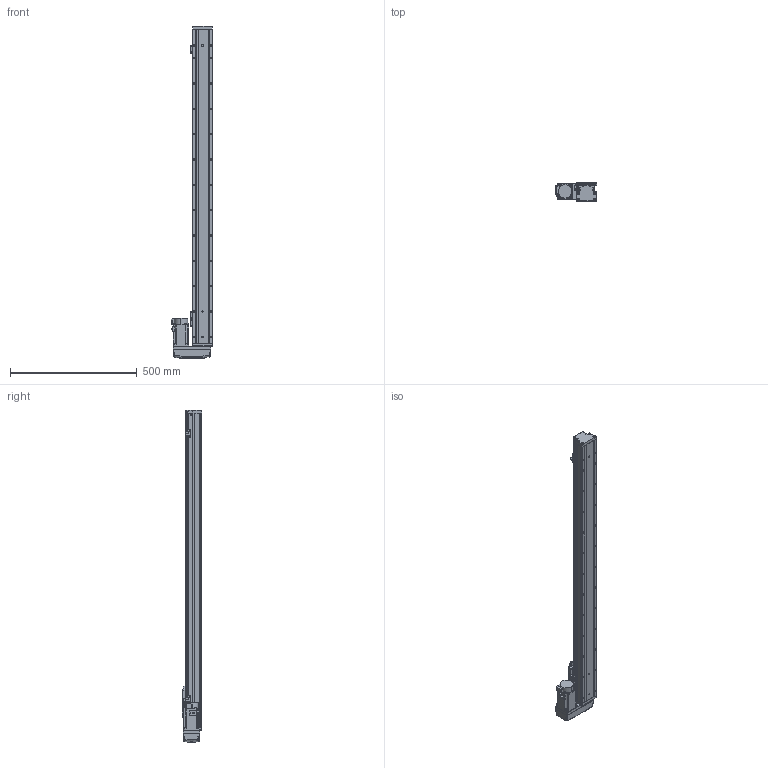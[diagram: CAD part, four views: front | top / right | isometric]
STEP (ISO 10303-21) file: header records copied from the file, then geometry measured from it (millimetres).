
FILE_DESCRIPTION (( 'STEP AP203' ), '1' );
FILE_NAME ('GTH8-1050-BL-M20-C4.step', '2022-09-23T00:58:59', ( '微软用户' ), ( '微软中国' ), 'SwSTEP 2.0', 'SolidWorks 2020', '' );
FILE_SCHEMA (( 'CONFIG_CONTROL_DESIGN' ));
Length unit declared in the file: millimetre
Products named in the file (18): GTH50-024; GTH8-1050-BL-M20-C4; GTH80-013; GTH50-023; GBT 70.3-M3℅6; GBT96.1-2002 3×0.8; GTH80-022; BTH-M3X5X6; GTH80-001_1050; GBT 70.1-M3℅6; hg-kn43j_-s100_; GTH80-003; GBT 70.1-M4×16; CTHA86-015-1_CTHA86-015-2; GTH80-004; GTH80-028; CTHA86-033_M40B; GTH80-006
Assembly tree (57 placements, depth 2):
  GTH8-1050-BL-M20-C4
    GTH80-001_1050
    GTH80-003
    GTH80-004
    GTH80-006
    GTH80-013
    GBT 70.3-M3℅6  x4
    GTH80-022
    GBT 70.1-M3℅6  x14
    GBT 70.1-M4×16  x8
    GTH80-028  x2
    GTH50-024  x3
    GTH50-023  x3
    GBT96.1-2002 3×0.8  x6
    BTH-M3X5X6  x8
    hg-kn43j_-s100_
    CTHA86-015-1_CTHA86-015-2
    CTHA86-033_M40B
Bounding box: 164.8 x 78 x 1311 mm (x, y, z)
Volume: 6355659.5 mm3; surface area: 614518.2 mm2
Topology: 59 solids, 59 shells, 2260 faces, 5235 edges, 3211 vertices
Faces by surface type: plane 1187, cylinder 631, cone 260, torus 166, bspline 8, sphere 8
Entity records: 41662 total; most frequent: CARTESIAN_POINT 7313, DIRECTION 6789, ORIENTED_EDGE 6288, EDGE_CURVE 3144, AXIS2_PLACEMENT_3D 2385, VECTOR 2019, LINE 2019, VERTEX_POINT 1986
